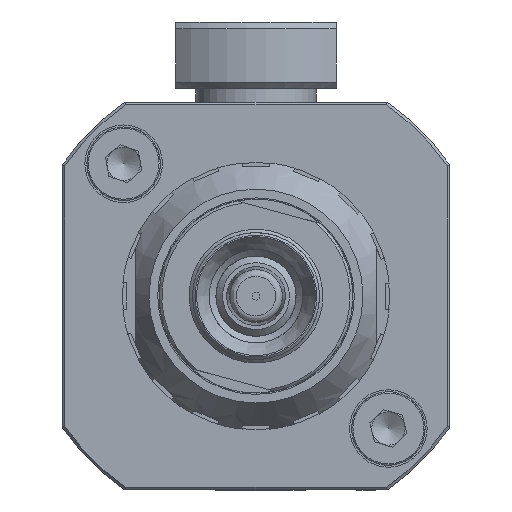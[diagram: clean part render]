
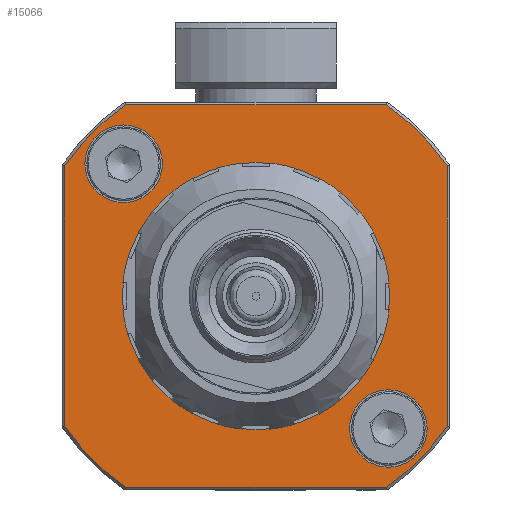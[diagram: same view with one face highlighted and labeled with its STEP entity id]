
A CAD part, front view. The second image highlights one B-rep face of the part: STEP entity #15066.
In plain terms, the highlighted planar face has unit normal (0, -1, 0).
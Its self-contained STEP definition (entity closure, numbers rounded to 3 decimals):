
#36 = EDGE_CURVE ( 'NONE', #34297, #33619, #28795, .T. ) ;
#230 = DIRECTION ( 'NONE',  ( 1., 0., 0. ) ) ;
#822 = CARTESIAN_POINT ( 'NONE',  ( -21.401, -115.979, 369.766 ) ) ;
#1362 = FACE_BOUND ( 'NONE', #10942, .T. ) ;
#1511 = DIRECTION ( 'NONE',  ( 0., 1., 0. ) ) ;
#1902 = LINE ( 'NONE', #32727, #30955 ) ;
#2005 = CARTESIAN_POINT ( 'NONE',  ( -21.401, -115.979, 369.766 ) ) ;
#2520 = EDGE_CURVE ( 'NONE', #25015, #19415, #32392, .T. ) ;
#2560 = DIRECTION ( 'NONE',  ( -1., 0., 0. ) ) ;
#3096 = CARTESIAN_POINT ( 'NONE',  ( -35.701, -115.979, 379.503 ) ) ;
#3897 = DIRECTION ( 'NONE',  ( -1., 0., 0. ) ) ;
#3930 = AXIS2_PLACEMENT_3D ( 'NONE', #16352, #27431, #2560 ) ;
#4256 = DIRECTION ( 'NONE',  ( 0., 1., 0. ) ) ;
#4267 = EDGE_CURVE ( 'NONE', #34297, #32407, #19992, .T. ) ;
#4330 = CARTESIAN_POINT ( 'NONE',  ( -11.603, -115.979, 384.066 ) ) ;
#4865 = EDGE_LOOP ( 'NONE', ( #27389 ) ) ;
#5026 = VERTEX_POINT ( 'NONE', #18838 ) ;
#5550 = AXIS2_PLACEMENT_3D ( 'NONE', #34922, #21140, #32206 ) ;
#6125 = AXIS2_PLACEMENT_3D ( 'NONE', #9670, #1511, #20753 ) ;
#6511 = LINE ( 'NONE', #4330, #17892 ) ;
#6608 = FACE_BOUND ( 'NONE', #22729, .T. ) ;
#6887 = CARTESIAN_POINT ( 'NONE',  ( -11.664, -115.979, 355.466 ) ) ;
#6918 = CARTESIAN_POINT ( 'NONE',  ( -34.2, -115.979, 379.666 ) ) ;
#8465 = CARTESIAN_POINT ( 'NONE',  ( -11.501, -115.979, 359.867 ) ) ;
#9292 = CIRCLE ( 'NONE', #23170, 2.9 ) ;
#9360 = VERTEX_POINT ( 'NONE', #15177 ) ;
#9536 = DIRECTION ( 'NONE',  ( 0., 1., 0. ) ) ;
#9582 = VECTOR ( 'NONE', #12398, 1000. ) ;
#9670 = CARTESIAN_POINT ( 'NONE',  ( -21.401, -115.979, 369.766 ) ) ;
#9782 = CARTESIAN_POINT ( 'NONE',  ( -31.138, -115.979, 384.066 ) ) ;
#10942 = EDGE_LOOP ( 'NONE', ( #33568 ) ) ;
#11359 = DIRECTION ( 'NONE',  ( 0., 1., 0. ) ) ;
#11466 = VERTEX_POINT ( 'NONE', #22548 ) ;
#11727 = EDGE_LOOP ( 'NONE', ( #23303, #15741, #17238, #33538, #21372, #26491, #28061, #18437 ) ) ;
#12254 = CARTESIAN_POINT ( 'NONE',  ( -21.401, -115.979, 369.766 ) ) ;
#12398 = DIRECTION ( 'NONE',  ( 0., 0., -1. ) ) ;
#13060 = DIRECTION ( 'NONE',  ( -1., 0., 0. ) ) ;
#13125 = AXIS2_PLACEMENT_3D ( 'NONE', #12254, #9536, #30049 ) ;
#13410 = EDGE_CURVE ( 'NONE', #5026, #19415, #1902, .T. ) ;
#13818 = AXIS2_PLACEMENT_3D ( 'NONE', #22402, #32740, #32927 ) ;
#14238 = CIRCLE ( 'NONE', #5550, 17.3 ) ;
#14272 = DIRECTION ( 'NONE',  ( -1., 0., 0. ) ) ;
#14340 = VECTOR ( 'NONE', #230, 1000. ) ;
#14969 = FACE_BOUND ( 'NONE', #4865, .T. ) ;
#15066 = ADVANCED_FACE ( 'NONE', ( #1362, #6608, #14969, #23479 ), #31846, .F. ) ;
#15177 = CARTESIAN_POINT ( 'NONE',  ( -14.401, -115.979, 359.867 ) ) ;
#15741 = ORIENTED_EDGE ( 'NONE', *, *, #28685, .F. ) ;
#16352 = CARTESIAN_POINT ( 'NONE',  ( -31.3, -115.979, 379.666 ) ) ;
#16860 = EDGE_CURVE ( 'NONE', #20117, #33619, #29465, .T. ) ;
#17238 = ORIENTED_EDGE ( 'NONE', *, *, #13410, .T. ) ;
#17892 = VECTOR ( 'NONE', #23382, 1000. ) ;
#17979 = CARTESIAN_POINT ( 'NONE',  ( -31.138, -115.979, 355.466 ) ) ;
#18437 = ORIENTED_EDGE ( 'NONE', *, *, #36, .F. ) ;
#18838 = CARTESIAN_POINT ( 'NONE',  ( -7.101, -115.979, 360.03 ) ) ;
#19415 = VERTEX_POINT ( 'NONE', #28010 ) ;
#19597 = CIRCLE ( 'NONE', #13818, 10. ) ;
#19992 = LINE ( 'NONE', #31063, #14340 ) ;
#20117 = VERTEX_POINT ( 'NONE', #3096 ) ;
#20356 = VERTEX_POINT ( 'NONE', #6918 ) ;
#20753 = DIRECTION ( 'NONE',  ( 0., 0., 1. ) ) ;
#21140 = DIRECTION ( 'NONE',  ( 0., 1., 0. ) ) ;
#21372 = ORIENTED_EDGE ( 'NONE', *, *, #23485, .T. ) ;
#21765 = CIRCLE ( 'NONE', #6125, 17.3 ) ;
#22402 = CARTESIAN_POINT ( 'NONE',  ( -21.401, -115.979, 369.766 ) ) ;
#22548 = CARTESIAN_POINT ( 'NONE',  ( -11.401, -115.979, 369.766 ) ) ;
#22729 = EDGE_LOOP ( 'NONE', ( #27428 ) ) ;
#23055 = EDGE_CURVE ( 'NONE', #11466, #11466, #19597, .T. ) ;
#23170 = AXIS2_PLACEMENT_3D ( 'NONE', #8465, #11359, #14272 ) ;
#23303 = ORIENTED_EDGE ( 'NONE', *, *, #4267, .T. ) ;
#23382 = DIRECTION ( 'NONE',  ( -1., 0., 0. ) ) ;
#23479 = FACE_OUTER_BOUND ( 'NONE', #11727, .T. ) ;
#23485 = EDGE_CURVE ( 'NONE', #25015, #23553, #6511, .T. ) ;
#23553 = VERTEX_POINT ( 'NONE', #9782 ) ;
#25015 = VERTEX_POINT ( 'NONE', #26276 ) ;
#26276 = CARTESIAN_POINT ( 'NONE',  ( -11.664, -115.979, 384.066 ) ) ;
#26408 = CARTESIAN_POINT ( 'NONE',  ( -35.701, -115.979, 360.03 ) ) ;
#26460 = EDGE_CURVE ( 'NONE', #20356, #20356, #32878, .T. ) ;
#26491 = ORIENTED_EDGE ( 'NONE', *, *, #28127, .F. ) ;
#26942 = DIRECTION ( 'NONE',  ( 0., 0., 1. ) ) ;
#27239 = DIRECTION ( 'NONE',  ( 0., 1., 0. ) ) ;
#27389 = ORIENTED_EDGE ( 'NONE', *, *, #26460, .T. ) ;
#27428 = ORIENTED_EDGE ( 'NONE', *, *, #35803, .T. ) ;
#27431 = DIRECTION ( 'NONE',  ( 0., 1., 0. ) ) ;
#28010 = CARTESIAN_POINT ( 'NONE',  ( -7.101, -115.979, 379.503 ) ) ;
#28061 = ORIENTED_EDGE ( 'NONE', *, *, #16860, .T. ) ;
#28127 = EDGE_CURVE ( 'NONE', #20117, #23553, #14238, .T. ) ;
#28685 = EDGE_CURVE ( 'NONE', #5026, #32407, #21765, .T. ) ;
#28795 = CIRCLE ( 'NONE', #13125, 17.3 ) ;
#29116 = CARTESIAN_POINT ( 'NONE',  ( -35.701, -115.979, 379.564 ) ) ;
#29465 = LINE ( 'NONE', #29116, #9582 ) ;
#30049 = DIRECTION ( 'NONE',  ( -1., 0., 0. ) ) ;
#30955 = VECTOR ( 'NONE', #26942, 1000. ) ;
#31063 = CARTESIAN_POINT ( 'NONE',  ( -11.603, -115.979, 355.466 ) ) ;
#31846 = PLANE ( 'NONE',  #33925 ) ;
#32206 = DIRECTION ( 'NONE',  ( -1., 0., 0. ) ) ;
#32392 = CIRCLE ( 'NONE', #35287, 17.3 ) ;
#32407 = VERTEX_POINT ( 'NONE', #6887 ) ;
#32727 = CARTESIAN_POINT ( 'NONE',  ( -7.101, -115.979, 379.564 ) ) ;
#32740 = DIRECTION ( 'NONE',  ( 0., -1., 0. ) ) ;
#32878 = CIRCLE ( 'NONE', #3930, 2.9 ) ;
#32927 = DIRECTION ( 'NONE',  ( 1., 0., 0. ) ) ;
#33538 = ORIENTED_EDGE ( 'NONE', *, *, #2520, .F. ) ;
#33568 = ORIENTED_EDGE ( 'NONE', *, *, #23055, .F. ) ;
#33619 = VERTEX_POINT ( 'NONE', #26408 ) ;
#33925 = AXIS2_PLACEMENT_3D ( 'NONE', #822, #4256, #3897 ) ;
#34297 = VERTEX_POINT ( 'NONE', #17979 ) ;
#34922 = CARTESIAN_POINT ( 'NONE',  ( -21.401, -115.979, 369.766 ) ) ;
#35287 = AXIS2_PLACEMENT_3D ( 'NONE', #2005, #27239, #13060 ) ;
#35803 = EDGE_CURVE ( 'NONE', #9360, #9360, #9292, .T. ) ;
